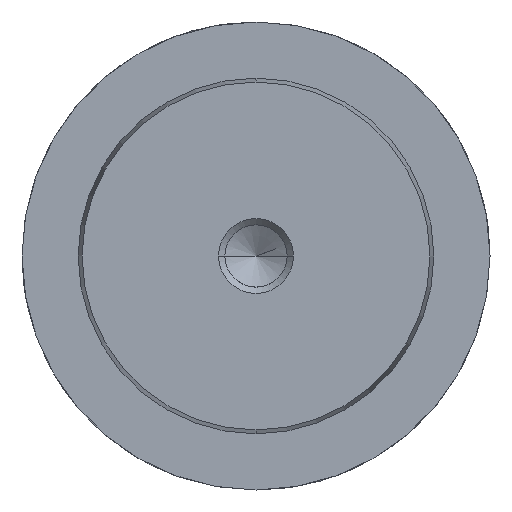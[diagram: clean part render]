
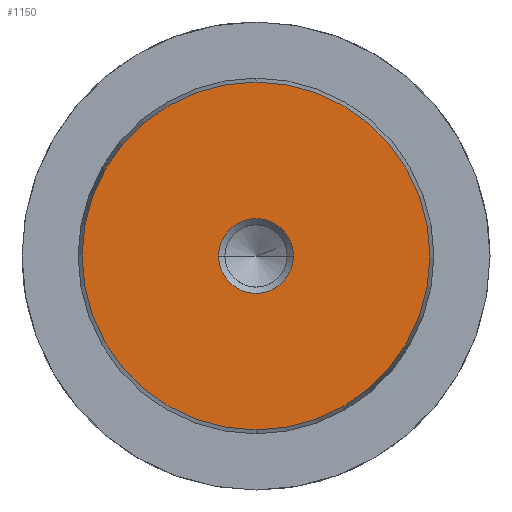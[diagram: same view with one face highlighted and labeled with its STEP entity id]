
A CAD part, left-side view. The second image highlights one B-rep face of the part: STEP entity #1150.
In plain terms, the highlighted planar face has unit normal (-1, 0, 0).
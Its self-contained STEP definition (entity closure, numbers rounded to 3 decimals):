
#1064=CARTESIAN_POINT('Vertex',(0.,0.,-18.578)) ;
#1067=CARTESIAN_POINT('Axis2P3D Location',(0.,0.,0.)) ;
#1071=CARTESIAN_POINT('Vertex',(0.,18.578,0.)) ;
#1074=CARTESIAN_POINT('Axis2P3D Location',(0.,0.,0.)) ;
#1078=CARTESIAN_POINT('Vertex',(0.,0.,18.578)) ;
#1100=CARTESIAN_POINT('Axis2P3D Location',(0.,0.,0.)) ;
#1104=CARTESIAN_POINT('Vertex',(0.,-18.578,0.)) ;
#1107=CARTESIAN_POINT('Axis2P3D Location',(0.,0.,0.)) ;
#1121=CARTESIAN_POINT('Axis2P3D Location',(0.,0.,0.)) ;
#1132=CARTESIAN_POINT('Axis2P3D Location',(0.,0.,0.)) ;
#1136=CARTESIAN_POINT('Vertex',(0.,4.,0.)) ;
#1138=CARTESIAN_POINT('Vertex',(0.,-4.,0.)) ;
#1141=CARTESIAN_POINT('Axis2P3D Location',(0.,0.,0.)) ;
#1068=DIRECTION('Axis2P3D Direction',(1.,0.,-0.)) ;
#1075=DIRECTION('Axis2P3D Direction',(1.,0.,-0.)) ;
#1101=DIRECTION('Axis2P3D Direction',(1.,0.,-0.)) ;
#1108=DIRECTION('Axis2P3D Direction',(1.,0.,-0.)) ;
#1122=DIRECTION('Axis2P3D Direction',(1.,0.,-0.)) ;
#1123=DIRECTION('Axis2P3D XDirection',(-0.,0.,-1.)) ;
#1133=DIRECTION('Axis2P3D Direction',(1.,0.,-0.)) ;
#1142=DIRECTION('Axis2P3D Direction',(1.,0.,-0.)) ;
#1069=AXIS2_PLACEMENT_3D('Circle Axis2P3D',#1067,#1068,$) ;
#1076=AXIS2_PLACEMENT_3D('Circle Axis2P3D',#1074,#1075,$) ;
#1102=AXIS2_PLACEMENT_3D('Circle Axis2P3D',#1100,#1101,$) ;
#1109=AXIS2_PLACEMENT_3D('Circle Axis2P3D',#1107,#1108,$) ;
#1124=AXIS2_PLACEMENT_3D('Plane Axis2P3D',#1121,#1122,#1123) ;
#1134=AXIS2_PLACEMENT_3D('Circle Axis2P3D',#1132,#1133,$) ;
#1143=AXIS2_PLACEMENT_3D('Circle Axis2P3D',#1141,#1142,$) ;
#1127=ORIENTED_EDGE('',*,*,#1073,.F.) ;
#1128=ORIENTED_EDGE('',*,*,#1111,.F.) ;
#1129=ORIENTED_EDGE('',*,*,#1106,.F.) ;
#1130=ORIENTED_EDGE('',*,*,#1080,.F.) ;
#1147=ORIENTED_EDGE('',*,*,#1140,.T.) ;
#1148=ORIENTED_EDGE('',*,*,#1145,.T.) ;
#1149=FACE_BOUND('',#1146,.T.) ;
#1150=ADVANCED_FACE('718-38x280',(#1131,#1149),#1125,.F.) ;
#1070=CIRCLE('generated circle',#1069,18.578) ;
#1077=CIRCLE('generated circle',#1076,18.578) ;
#1103=CIRCLE('generated circle',#1102,18.578) ;
#1110=CIRCLE('generated circle',#1109,18.578) ;
#1135=CIRCLE('generated circle',#1134,4.) ;
#1144=CIRCLE('generated circle',#1143,4.) ;
#1073=EDGE_CURVE('',#1065,#1072,#1070,.T.) ;
#1080=EDGE_CURVE('',#1072,#1079,#1077,.T.) ;
#1106=EDGE_CURVE('',#1079,#1105,#1103,.T.) ;
#1111=EDGE_CURVE('',#1105,#1065,#1110,.T.) ;
#1140=EDGE_CURVE('',#1137,#1139,#1135,.T.) ;
#1145=EDGE_CURVE('',#1139,#1137,#1144,.T.) ;
#1126=EDGE_LOOP('',(#1127,#1128,#1129,#1130)) ;
#1146=EDGE_LOOP('',(#1147,#1148)) ;
#1131=FACE_OUTER_BOUND('',#1126,.T.) ;
#1125=PLANE('Plane',#1124) ;
#1065=VERTEX_POINT('',#1064) ;
#1072=VERTEX_POINT('',#1071) ;
#1079=VERTEX_POINT('',#1078) ;
#1105=VERTEX_POINT('',#1104) ;
#1137=VERTEX_POINT('',#1136) ;
#1139=VERTEX_POINT('',#1138) ;
